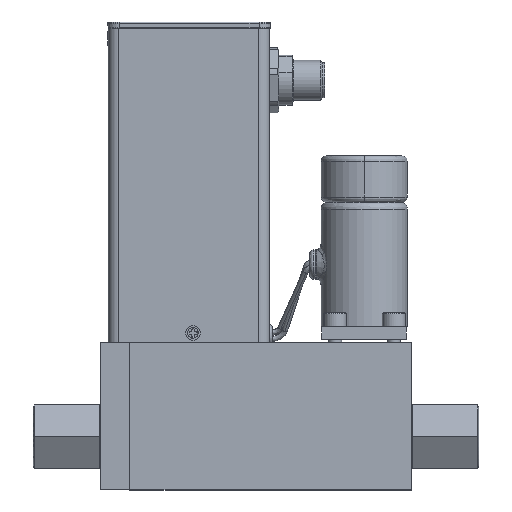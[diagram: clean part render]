
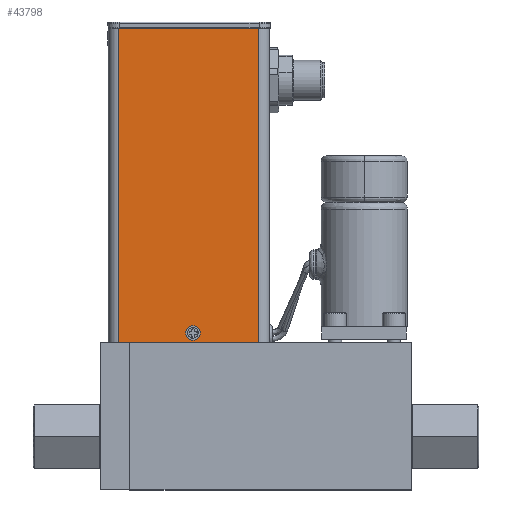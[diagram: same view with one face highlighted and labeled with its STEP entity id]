
A CAD part, front view. The second image highlights one B-rep face of the part: STEP entity #43798.
In plain terms, the highlighted planar face has unit normal (0, -1, 0).
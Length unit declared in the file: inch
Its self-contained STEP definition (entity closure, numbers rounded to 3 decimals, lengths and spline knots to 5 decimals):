
#1875 = LINE ( 'NONE', #12464, #65595 ) ;
#2638 = AXIS2_PLACEMENT_3D ( 'NONE', #46786, #26176, #55732 ) ;
#3292 = LINE ( 'NONE', #48471, #19254 ) ;
#3674 = CIRCLE ( 'NONE', #2638, 0.06299 ) ;
#4843 = CARTESIAN_POINT ( 'NONE',  ( 0.20236, 0.00639, 1.48511 ) ) ;
#6961 = EDGE_LOOP ( 'NONE', ( #34066, #57734, #9129, #17515 ) ) ;
#6990 = LINE ( 'NONE', #45450, #17261 ) ;
#9129 = ORIENTED_EDGE ( 'NONE', *, *, #47349, .T. ) ;
#11447 = CARTESIAN_POINT ( 'NONE',  ( 1.85836, 0.00639, 5.19964 ) ) ;
#12233 = DIRECTION ( 'NONE',  ( -1., 0., 0. ) ) ;
#12464 = CARTESIAN_POINT ( 'NONE',  ( 0.20236, 0.00639, 1.48511 ) ) ;
#14275 = ORIENTED_EDGE ( 'NONE', *, *, #49555, .T. ) ;
#14277 = DIRECTION ( 'NONE',  ( 0., 0., -1. ) ) ;
#15226 = PLANE ( 'NONE',  #63818 ) ;
#16340 = VECTOR ( 'NONE', #48967, 39.37008 ) ;
#17225 = VERTEX_POINT ( 'NONE', #22252 ) ;
#17261 = VECTOR ( 'NONE', #34816, 39.37008 ) ;
#17265 = VERTEX_POINT ( 'NONE', #48446 ) ;
#17515 = ORIENTED_EDGE ( 'NONE', *, *, #33575, .T. ) ;
#19254 = VECTOR ( 'NONE', #12233, 39.37008 ) ;
#22036 = ORIENTED_EDGE ( 'NONE', *, *, #44087, .T. ) ;
#22252 = CARTESIAN_POINT ( 'NONE',  ( 1.07761, 0.00639, 1.54012 ) ) ;
#22292 = VERTEX_POINT ( 'NONE', #35891 ) ;
#23255 = DIRECTION ( 'NONE',  ( 0., 1., 0. ) ) ;
#26176 = DIRECTION ( 'NONE',  ( 0., 1., 0. ) ) ;
#28191 = CARTESIAN_POINT ( 'NONE',  ( 0.20236, 0.00639, 5.19964 ) ) ;
#29988 = LINE ( 'NONE', #59245, #16340 ) ;
#30907 = CIRCLE ( 'NONE', #58486, 0.06299 ) ;
#33048 = EDGE_LOOP ( 'NONE', ( #22036, #14275 ) ) ;
#33575 = EDGE_CURVE ( 'NONE', #17265, #54456, #6990, .T. ) ;
#34066 = ORIENTED_EDGE ( 'NONE', *, *, #44045, .T. ) ;
#34816 = DIRECTION ( 'NONE',  ( 0., 0., 1. ) ) ;
#35891 = CARTESIAN_POINT ( 'NONE',  ( 1.07761, 0.00639, 1.6661 ) ) ;
#38099 = DIRECTION ( 'NONE',  ( 0., 0., -1. ) ) ;
#38416 = VERTEX_POINT ( 'NONE', #4843 ) ;
#39908 = FACE_OUTER_BOUND ( 'NONE', #6961, .T. ) ;
#43798 = ADVANCED_FACE ( 'NONE', ( #39908, #45207 ), #15226, .T. ) ;
#44033 = VERTEX_POINT ( 'NONE', #28191 ) ;
#44045 = EDGE_CURVE ( 'NONE', #54456, #44033, #3292, .T. ) ;
#44087 = EDGE_CURVE ( 'NONE', #22292, #17225, #30907, .T. ) ;
#45207 = FACE_BOUND ( 'NONE', #33048, .T. ) ;
#45450 = CARTESIAN_POINT ( 'NONE',  ( 1.85836, 0.00639, 1.48511 ) ) ;
#46786 = CARTESIAN_POINT ( 'NONE',  ( 1.07761, 0.00639, 1.60311 ) ) ;
#47349 = EDGE_CURVE ( 'NONE', #38416, #17265, #29988, .T. ) ;
#48446 = CARTESIAN_POINT ( 'NONE',  ( 1.85836, 0.00639, 1.48511 ) ) ;
#48471 = CARTESIAN_POINT ( 'NONE',  ( 1.03036, 0.00639, 5.19964 ) ) ;
#48967 = DIRECTION ( 'NONE',  ( 1., 0., 0. ) ) ;
#49555 = EDGE_CURVE ( 'NONE', #17225, #22292, #3674, .T. ) ;
#52791 = CARTESIAN_POINT ( 'NONE',  ( 1.07761, 0.00639, 1.60311 ) ) ;
#53182 = EDGE_CURVE ( 'NONE', #44033, #38416, #1875, .T. ) ;
#54456 = VERTEX_POINT ( 'NONE', #11447 ) ;
#55732 = DIRECTION ( 'NONE',  ( 0., 0., 1. ) ) ;
#57734 = ORIENTED_EDGE ( 'NONE', *, *, #53182, .T. ) ;
#58104 = DIRECTION ( 'NONE',  ( 0., 0., 1. ) ) ;
#58486 = AXIS2_PLACEMENT_3D ( 'NONE', #52791, #23255, #58104 ) ;
#59245 = CARTESIAN_POINT ( 'NONE',  ( 1.03036, 0.00639, 1.48511 ) ) ;
#60149 = CARTESIAN_POINT ( 'NONE',  ( 1.03036, 0.00639, 1.48511 ) ) ;
#60494 = DIRECTION ( 'NONE',  ( 0., -1., 0. ) ) ;
#63818 = AXIS2_PLACEMENT_3D ( 'NONE', #60149, #60494, #14277 ) ;
#65595 = VECTOR ( 'NONE', #38099, 39.37008 ) ;
